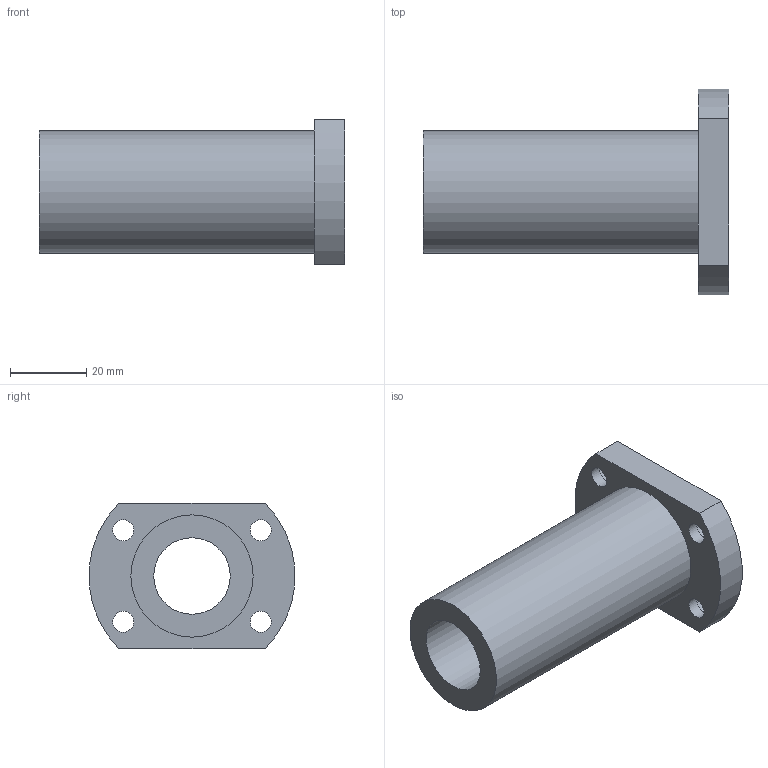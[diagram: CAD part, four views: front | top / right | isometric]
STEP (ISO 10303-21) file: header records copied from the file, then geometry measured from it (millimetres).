
FILE_DESCRIPTION(/* description */ ('Unknown'),/* implementation_level */ '2;1');
FILE_NAME(/* name */ 'LMH20LUU',/* time_stamp */ '2025-02-04T10:31:17+08:00',/* author */ ('Unknown'),/* organization */ ('Unknown'),/* preprocessor_version */ 'ST-DEVELOPER v18.102',/* originating_system */ 'Solid Edge',/* authorisation */ 'Unknown');
FILE_SCHEMA (('AUTOMOTIVE_DESIGN {1 0 10303 214 3 1 1}'));
Length unit declared in the file: millimetre
Products named in the file (1): LMH20LUU
Bounding box: 80 x 53.8 x 38 mm (x, y, z)
Volume: 46136.3 mm3; surface area: 17246.1 mm2
Topology: 1 solids, 1 shells, 21 faces, 42 edges, 28 vertices
Faces by surface type: cylinder 12, plane 9
Full cylindrical faces by diameter (mm): 5.5 x4, 9 x4, 20 x1, 32 x1
Entity records: 560 total; most frequent: DIRECTION 100, CARTESIAN_POINT 82, ORIENTED_EDGE 64, EDGE_LOOP 46, FACE_BOUND 46, AXIS2_PLACEMENT_3D 46, EDGE_CURVE 32, VERTEX_POINT 28
